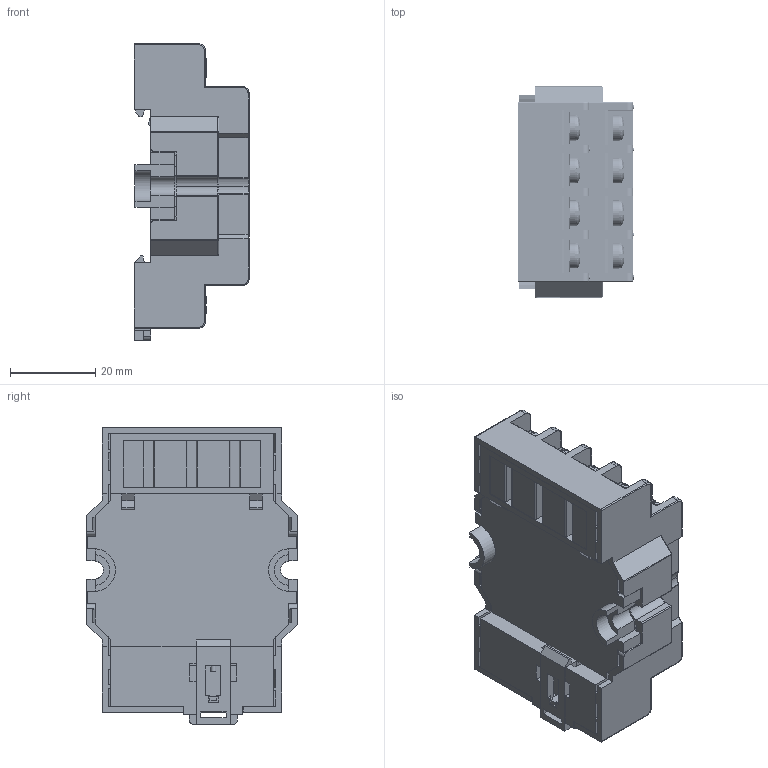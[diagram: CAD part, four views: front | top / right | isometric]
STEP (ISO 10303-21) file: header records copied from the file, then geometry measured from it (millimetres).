
FILE_DESCRIPTION (( 'STEP AP214' ), '1' );
FILE_NAME ('RN14-SOCKET.STEP', '2026-03-23T10:27:38', ( '' ), ( '' ), 'SwSTEP 2.0', 'SolidWorks 2025', '' );
FILE_SCHEMA (( 'AUTOMOTIVE_DESIGN' ));
Length unit declared in the file: millimetre
Products named in the file (1): RN14-SOCKET
Bounding box: 27.2 x 49.5 x 69.6 mm (x, y, z)
Volume: 40518.9 mm3; surface area: 52667.7 mm2
Topology: 45 solids, 47 shells, 4618 faces, 13271 edges, 8863 vertices
Faces by surface type: plane 3369, cylinder 685, bspline 353, cone 156, torus 43, sphere 12
Entity records: 196872 total; most frequent: CARTESIAN_POINT 78656, ORIENTED_EDGE 26462, DIRECTION 21208, EDGE_CURVE 13231, VECTOR 9766, LINE 9766, VERTEX_POINT 8863, AXIS2_PLACEMENT_3D 5721
